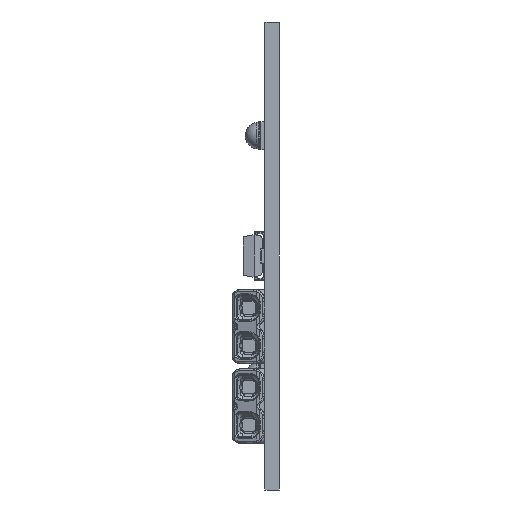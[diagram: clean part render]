
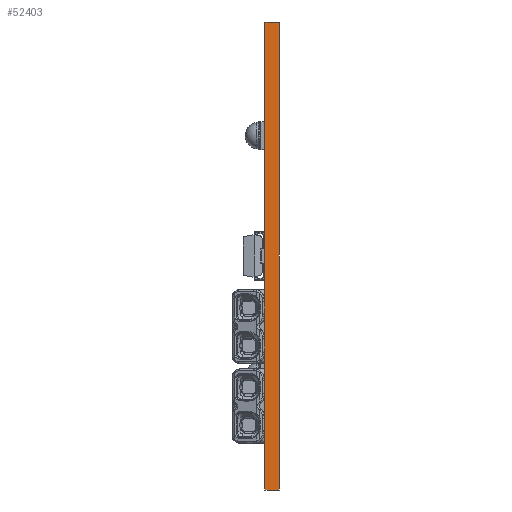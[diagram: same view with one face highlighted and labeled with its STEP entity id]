
A CAD part, left-side view. The second image highlights one B-rep face of the part: STEP entity #52403.
In plain terms, the highlighted planar face has unit normal (-1, 0, 0).
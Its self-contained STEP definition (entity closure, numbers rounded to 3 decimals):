
#318=DIRECTION('',(0.,0.,-1.));
#319=VECTOR('',#318,49.5);
#320=CARTESIAN_POINT('',(-35.3,0.,24.75));
#321=LINE('',#320,#319);
#4175=DIRECTION('',(0.,1.,0.));
#4176=VECTOR('',#4175,1.5);
#4177=CARTESIAN_POINT('',(-35.3,-1.5,24.75));
#4178=LINE('',#4177,#4176);
#4187=DIRECTION('',(0.,0.,-1.));
#4188=VECTOR('',#4187,49.5);
#4189=CARTESIAN_POINT('',(-35.3,-1.5,24.75));
#4190=LINE('',#4189,#4188);
#4191=DIRECTION('',(0.,1.,0.));
#4192=VECTOR('',#4191,1.5);
#4193=CARTESIAN_POINT('',(-35.3,-1.5,-24.75));
#4194=LINE('',#4193,#4192);
#36431=CARTESIAN_POINT('',(-35.3,0.,-24.75));
#36433=VERTEX_POINT('',#36431);
#36437=CARTESIAN_POINT('',(-35.3,0.,24.75));
#36438=VERTEX_POINT('',#36437);
#46650=CARTESIAN_POINT('',(-35.3,-1.5,24.75));
#46652=VERTEX_POINT('',#46650);
#46656=CARTESIAN_POINT('',(-35.3,-1.5,-24.75));
#46657=VERTEX_POINT('',#46656);
#52392=CARTESIAN_POINT('',(-35.3,0.,-24.75));
#52393=DIRECTION('',(-1.,0.,0.));
#52394=DIRECTION('',(0.,0.,1.));
#52395=AXIS2_PLACEMENT_3D('',#52392,#52393,#52394);
#52396=PLANE('',#52395);
#52397=ORIENTED_EDGE('',*,*,#52250,.T.);
#52398=ORIENTED_EDGE('',*,*,#52228,.T.);
#52399=ORIENTED_EDGE('',*,*,#47183,.F.);
#52400=ORIENTED_EDGE('',*,*,#52361,.F.);
#52401=EDGE_LOOP('',(#52397,#52398,#52399,#52400));
#52402=FACE_OUTER_BOUND('',#52401,.F.);
#47183=EDGE_CURVE('',#36438,#36433,#321,.T.);
#52228=EDGE_CURVE('',#46657,#36433,#4194,.T.);
#52250=EDGE_CURVE('',#46652,#46657,#4190,.T.);
#52361=EDGE_CURVE('',#46652,#36438,#4178,.T.);
#52403=ADVANCED_FACE('',(#52402),#52396,.T.);
